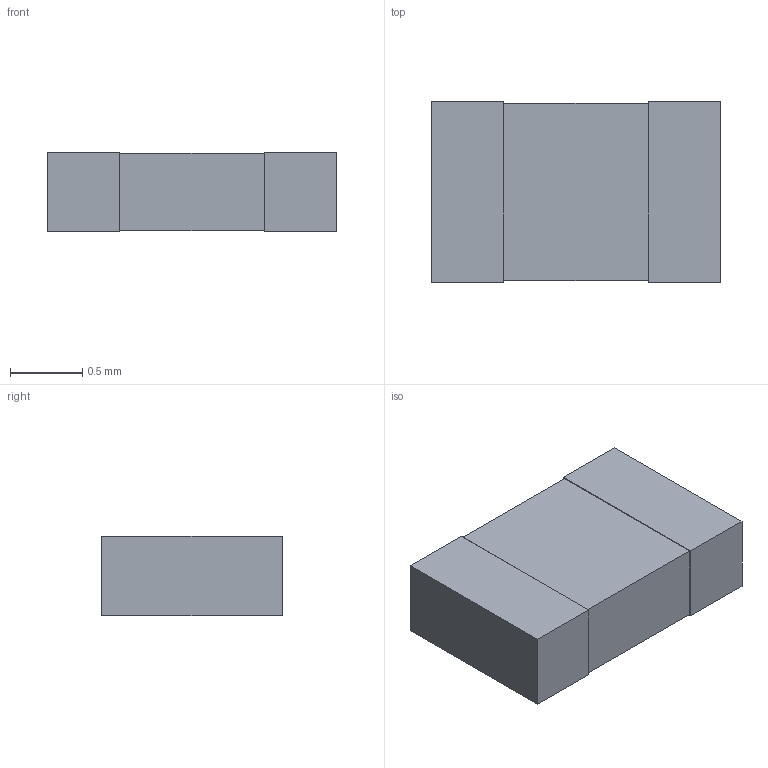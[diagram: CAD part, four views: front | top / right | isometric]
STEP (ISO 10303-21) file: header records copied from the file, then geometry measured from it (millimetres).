
FILE_DESCRIPTION(('FreeCAD Model'),'2;1');
FILE_NAME('/var/www/3D/0T/276104.2.1.stp','2018-03-13T11:59:54',( 'Author'),(''),'Open CASCADE STEP processor 6.8','FreeCAD','Unknown' );
FILE_SCHEMA(('AUTOMOTIVE_DESIGN_CC2 { 1 2 10303 214 -1 1 5 4 }'));
Length unit declared in the file: millimetre
Products named in the file (4): ASSEMBLY; term1; term2; body
Assembly tree (3 placements, depth 2):
  ASSEMBLY
    term1
    term2
    body
Bounding box: 2 x 1.25 x 0.55 mm (x, y, z)
Volume: 1.3 mm3; surface area: 11.2 mm2
Topology: 3 solids, 3 shells, 18 faces, 36 edges, 24 vertices
Faces by surface type: plane 18
Entity records: 1020 total; most frequent: CARTESIAN_POINT 154, DIRECTION 152, LINE 108, VECTOR 108, ORIENTED_EDGE 72, PCURVE 72, DEFINITIONAL_REPRESENTATION 72, EDGE_CURVE 36
